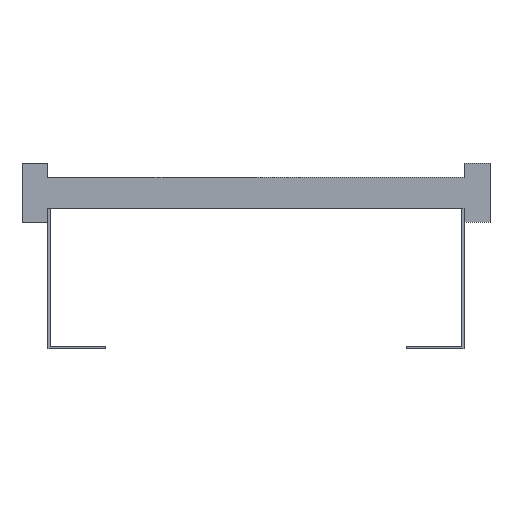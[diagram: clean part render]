
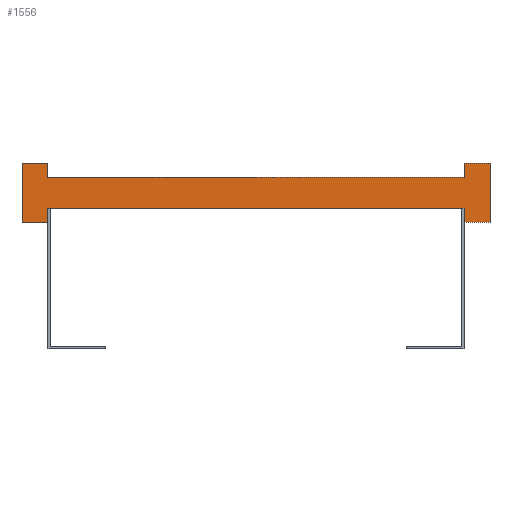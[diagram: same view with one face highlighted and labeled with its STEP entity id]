
A CAD part, front view. The second image highlights one B-rep face of the part: STEP entity #1556.
In plain terms, the highlighted planar face has unit normal (0, -1, 0).
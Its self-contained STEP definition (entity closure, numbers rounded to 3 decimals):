
#1=DIRECTION('',(0.,0.,1.));
#2=VECTOR('',#1,13.5);
#3=CARTESIAN_POINT('',(200.,0.,-28.5));
#4=LINE('',#3,#2);
#5=DIRECTION('',(0.,0.,-1.));
#6=VECTOR('',#5,13.5);
#7=CARTESIAN_POINT('',(-200.,0.,-15.));
#8=LINE('',#7,#6);
#9=DIRECTION('',(-1.,0.,0.));
#10=VECTOR('',#9,25.);
#11=CARTESIAN_POINT('',(-200.,0.,-28.5));
#12=LINE('',#11,#10);
#13=DIRECTION('',(0.,0.,1.));
#14=VECTOR('',#13,57.);
#15=CARTESIAN_POINT('',(-225.,0.,-28.5));
#16=LINE('',#15,#14);
#17=DIRECTION('',(1.,0.,0.));
#18=VECTOR('',#17,25.);
#19=CARTESIAN_POINT('',(-225.,0.,28.5));
#20=LINE('',#19,#18);
#21=DIRECTION('',(0.,0.,-1.));
#22=VECTOR('',#21,13.5);
#23=CARTESIAN_POINT('',(-200.,0.,28.5));
#24=LINE('',#23,#22);
#25=DIRECTION('',(0.,0.,1.));
#26=VECTOR('',#25,13.5);
#27=CARTESIAN_POINT('',(200.,0.,15.));
#28=LINE('',#27,#26);
#29=DIRECTION('',(1.,0.,0.));
#30=VECTOR('',#29,25.);
#31=CARTESIAN_POINT('',(200.,0.,28.5));
#32=LINE('',#31,#30);
#33=DIRECTION('',(0.,0.,-1.));
#34=VECTOR('',#33,57.);
#35=CARTESIAN_POINT('',(225.,0.,28.5));
#36=LINE('',#35,#34);
#37=DIRECTION('',(-1.,0.,0.));
#38=VECTOR('',#37,25.);
#39=CARTESIAN_POINT('',(225.,0.,-28.5));
#40=LINE('',#39,#38);
#1137=DIRECTION('',(1.,0.,0.));
#1138=VECTOR('',#1137,400.);
#1139=CARTESIAN_POINT('',(-200.,0.,-15.));
#1140=LINE('',#1139,#1138);
#1149=DIRECTION('',(1.,0.,0.));
#1150=VECTOR('',#1149,400.);
#1151=CARTESIAN_POINT('',(-200.,0.,15.));
#1152=LINE('',#1151,#1150);
#1153=CARTESIAN_POINT('',(-225.,0.,28.5));
#1154=CARTESIAN_POINT('',(-200.,0.,28.5));
#1155=VERTEX_POINT('',#1153);
#1156=VERTEX_POINT('',#1154);
#1157=CARTESIAN_POINT('',(-200.,0.,-28.5));
#1158=CARTESIAN_POINT('',(-225.,0.,-28.5));
#1159=VERTEX_POINT('',#1157);
#1160=VERTEX_POINT('',#1158);
#1161=CARTESIAN_POINT('',(225.,0.,28.5));
#1162=CARTESIAN_POINT('',(225.,0.,-28.5));
#1163=VERTEX_POINT('',#1161);
#1164=VERTEX_POINT('',#1162);
#1165=CARTESIAN_POINT('',(200.,0.,-28.5));
#1166=VERTEX_POINT('',#1165);
#1167=CARTESIAN_POINT('',(200.,0.,28.5));
#1168=VERTEX_POINT('',#1167);
#1185=CARTESIAN_POINT('',(-200.,0.,-15.));
#1187=VERTEX_POINT('',#1185);
#1189=CARTESIAN_POINT('',(-200.,0.,15.));
#1191=VERTEX_POINT('',#1189);
#1193=CARTESIAN_POINT('',(200.,0.,-15.));
#1195=VERTEX_POINT('',#1193);
#1197=CARTESIAN_POINT('',(200.,0.,15.));
#1199=VERTEX_POINT('',#1197);
#1525=CARTESIAN_POINT('',(0.,0.,0.));
#1526=DIRECTION('',(0.,1.,0.));
#1527=DIRECTION('',(1.,0.,0.));
#1528=AXIS2_PLACEMENT_3D('',#1525,#1526,#1527);
#1529=PLANE('',#1528);
#1531=ORIENTED_EDGE('',*,*,#1530,.T.);
#1533=ORIENTED_EDGE('',*,*,#1532,.F.);
#1535=ORIENTED_EDGE('',*,*,#1534,.T.);
#1537=ORIENTED_EDGE('',*,*,#1536,.T.);
#1539=ORIENTED_EDGE('',*,*,#1538,.T.);
#1541=ORIENTED_EDGE('',*,*,#1540,.T.);
#1543=ORIENTED_EDGE('',*,*,#1542,.T.);
#1545=ORIENTED_EDGE('',*,*,#1544,.T.);
#1547=ORIENTED_EDGE('',*,*,#1546,.T.);
#1549=ORIENTED_EDGE('',*,*,#1548,.T.);
#1551=ORIENTED_EDGE('',*,*,#1550,.T.);
#1553=ORIENTED_EDGE('',*,*,#1552,.T.);
#1554=EDGE_LOOP('',(#1531,#1533,#1535,#1537,#1539,#1541,#1543,#1545,#1547,#1549,
#1551,#1553));
#1555=FACE_OUTER_BOUND('',#1554,.F.);
#1556=ADVANCED_FACE('',(#1555),#1529,.F.);
#1530=EDGE_CURVE('',#1166,#1195,#4,.T.);
#1532=EDGE_CURVE('',#1187,#1195,#1140,.T.);
#1534=EDGE_CURVE('',#1187,#1159,#8,.T.);
#1536=EDGE_CURVE('',#1159,#1160,#12,.T.);
#1538=EDGE_CURVE('',#1160,#1155,#16,.T.);
#1540=EDGE_CURVE('',#1155,#1156,#20,.T.);
#1542=EDGE_CURVE('',#1156,#1191,#24,.T.);
#1544=EDGE_CURVE('',#1191,#1199,#1152,.T.);
#1546=EDGE_CURVE('',#1199,#1168,#28,.T.);
#1548=EDGE_CURVE('',#1168,#1163,#32,.T.);
#1550=EDGE_CURVE('',#1163,#1164,#36,.T.);
#1552=EDGE_CURVE('',#1164,#1166,#40,.T.);
